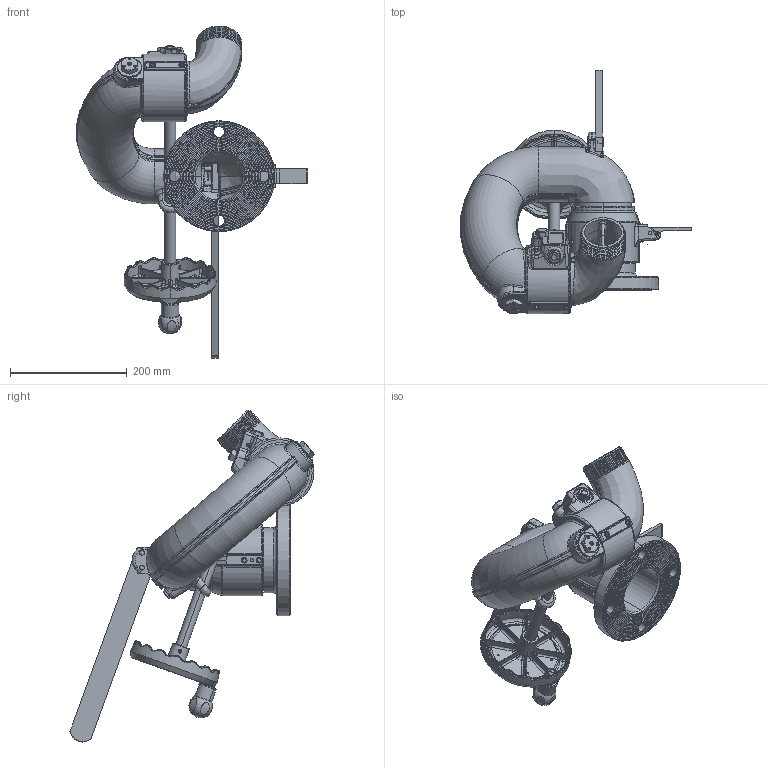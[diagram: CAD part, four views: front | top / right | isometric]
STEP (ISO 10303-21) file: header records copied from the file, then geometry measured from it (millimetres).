
FILE_DESCRIPTION (( 'STEP AP203' ), '1' );
FILE_NAME ('XFI-FLNJ_45_Up.STEP', '2014-07-03T16:16:01', ( '' ), ( '' ), 'SwSTEP 2.0', 'SolidWorks 2014', '' );
FILE_SCHEMA (( 'CONFIG_CONTROL_DESIGN' ));
Length unit declared in the file: inch
Products named in the file (1): XFI-FLNJ_45_Up
Bounding box: 397.37 x 419 x 569.9 mm (x, y, z)
Surface area: 587035 mm2 (no closed solid volume)
Topology: 0 solids, 79 shells, 1625 faces, 6099 edges, 4394 vertices
Faces by surface type: bspline 484, plane 357, cylinder 356, torus 249, cone 141, sphere 38
Entity records: 106358 total; most frequent: CARTESIAN_POINT 60370, ORIENTED_EDGE 9482, DIRECTION 8377, EDGE_CURVE 6066, VERTEX_POINT 4386, AXIS2_PLACEMENT_3D 3054, LINE 2269, VECTOR 2269
